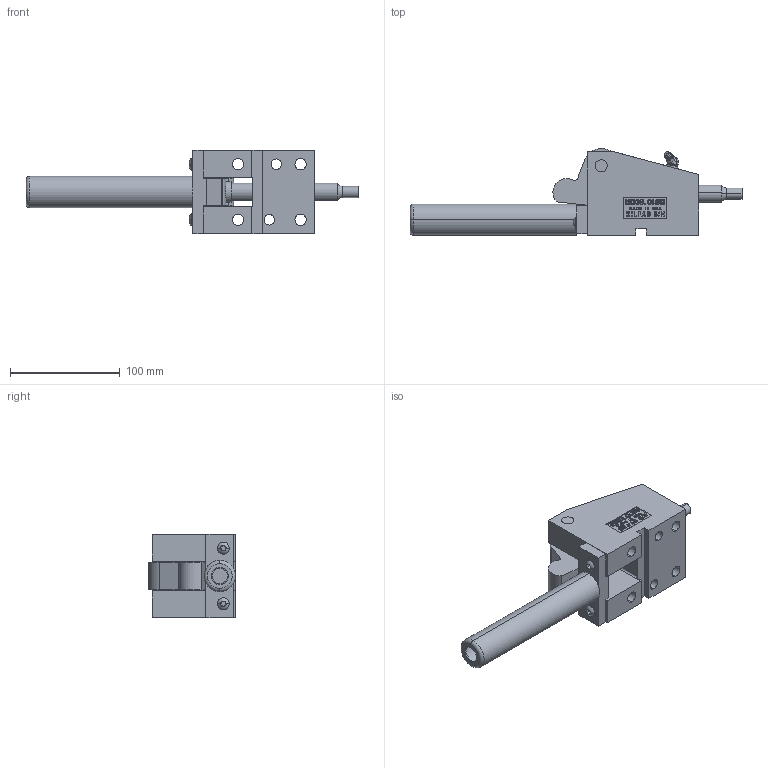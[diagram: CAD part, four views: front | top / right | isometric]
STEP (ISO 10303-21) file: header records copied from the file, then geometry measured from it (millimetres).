
FILE_DESCRIPTION (( 'STEP AP214' ), '1' );
FILE_NAME ('OL62545-C.STEP', '2014-01-05T20:43:02', ( 'user' ), ( '' ), 'SwSTEP 2.0', 'SolidWorks 2009', '' );
FILE_SCHEMA (( 'AUTOMOTIVE_DESIGN' ));
Length unit declared in the file: inch
Products named in the file (10): OL625-PUNCH; OL625-BODY; OL62545-C; OL625-CAGE; 625 PIVOT PIN; O-625-POINT; 625-O-STRAP; 1-4 SCREW; GREASE ZERK; 625-OFFSET TRIGGER
Assembly tree (10 placements, depth 2):
  OL62545-C
    625-O-STRAP
    O-625-POINT
    625-OFFSET TRIGGER
    OL625-BODY
    1-4 SCREW  x2
    OL625-CAGE
    GREASE ZERK
    625 PIVOT PIN
    OL625-PUNCH
Bounding box: 303.07 x 79.37 x 76.2 mm (x, y, z)
Volume: 487886.2 mm3; surface area: 115949.9 mm2
Topology: 10 solids, 10 shells, 593 faces, 1537 edges, 1013 vertices
Faces by surface type: plane 342, bspline 101, cylinder 100, cone 24, torus 22, sphere 4
Entity records: 23781 total; most frequent: CARTESIAN_POINT 9960, ORIENTED_EDGE 2990, DIRECTION 2387, EDGE_CURVE 1495, VERTEX_POINT 987, VECTOR 965, LINE 965, AXIS2_PLACEMENT_3D 711
